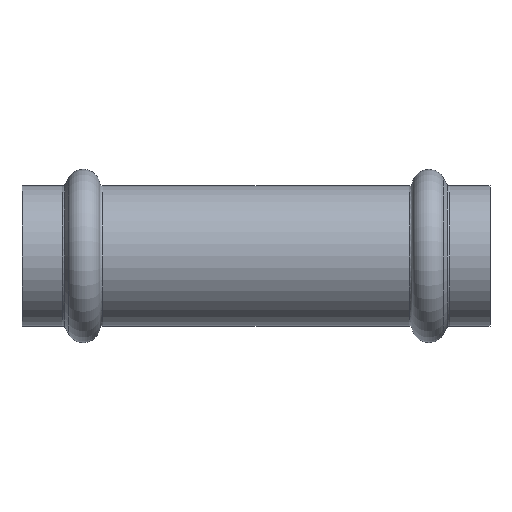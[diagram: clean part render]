
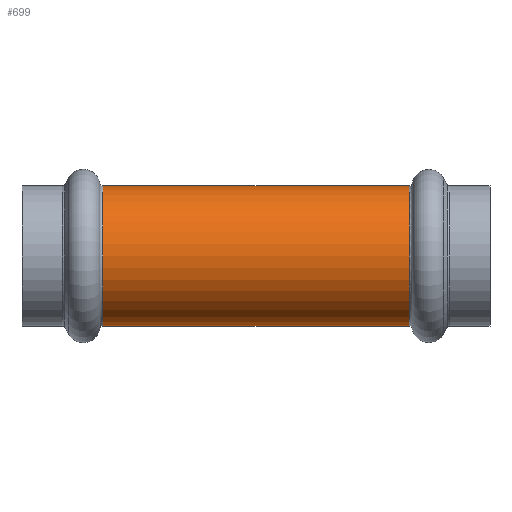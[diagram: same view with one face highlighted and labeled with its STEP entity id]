
A CAD part, front view. The second image highlights one B-rep face of the part: STEP entity #699.
In plain terms, the highlighted cylindrical face has radius 12.575 mm (diameter 25.15 mm), a full revolution.
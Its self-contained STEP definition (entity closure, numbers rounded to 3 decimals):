
#657=CARTESIAN_POINT('',(-14.46,12.575,0.0));
#658=VERTEX_POINT('',#657);
#659=CARTESIAN_POINT('',(-14.46,0.,0.0));
#660=DIRECTION('',(1.0,0.0,0.0));
#661=DIRECTION('',(0.0,-1.0,0.0));
#662=AXIS2_PLACEMENT_3D('',#659,#660,#661);
#663=CIRCLE('',#662,12.575);
#664=EDGE_CURVE('',#658,#658,#663,.T.);
#680=CARTESIAN_POINT('',(-42.0,0.,0.0));
#681=DIRECTION('',(1.0,0.,0.0));
#682=DIRECTION('',(0.0,1.0,0.0));
#683=AXIS2_PLACEMENT_3D('',#680,#681,#682);
#684=CYLINDRICAL_SURFACE('',#683,12.575);
#685=CARTESIAN_POINT('',(-69.54,12.575,0.));
#686=VERTEX_POINT('',#685);
#687=CARTESIAN_POINT('',(-69.54,0.,0.0));
#688=DIRECTION('',(-1.0,0.0,0.0));
#689=DIRECTION('',(0.0,-1.0,0.0));
#690=AXIS2_PLACEMENT_3D('',#687,#688,#689);
#691=CIRCLE('',#690,12.575);
#692=EDGE_CURVE('',#686,#686,#691,.T.);
#693=ORIENTED_EDGE('',*,*,#692,.F.);
#694=EDGE_LOOP('',(#693));
#695=FACE_OUTER_BOUND('',#694,.T.);
#696=ORIENTED_EDGE('',*,*,#664,.F.);
#697=EDGE_LOOP('',(#696));
#698=FACE_BOUND('',#697,.T.);
#699=ADVANCED_FACE('',(#695,#698),#684,.T.);
